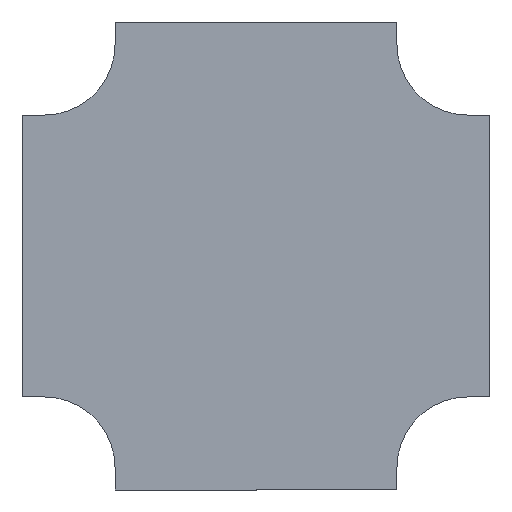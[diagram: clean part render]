
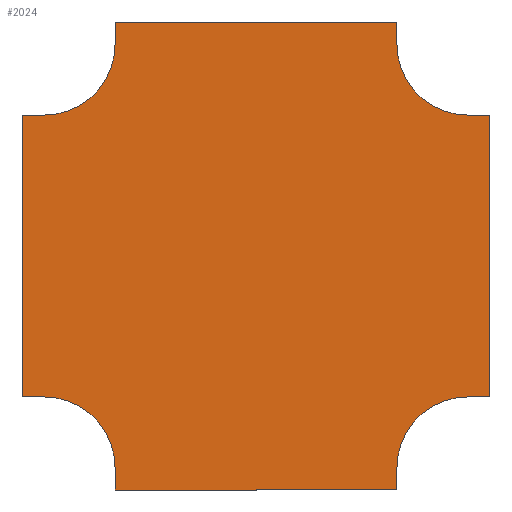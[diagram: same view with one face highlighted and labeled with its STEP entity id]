
A CAD part, front view. The second image highlights one B-rep face of the part: STEP entity #2024.
In plain terms, the highlighted planar face has unit normal (0, -1, 0).
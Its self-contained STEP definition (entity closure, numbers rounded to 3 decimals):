
#7 = DIRECTION ( 'NONE',  ( 0., 0., -1. ) ) ;
#35 = CARTESIAN_POINT ( 'NONE',  ( -625., 0., 0. ) ) ;
#46 = DIRECTION ( 'NONE',  ( 0., 0., 1. ) ) ;
#64 = EDGE_CURVE ( 'NONE', #1543, #1402, #2629, .T. ) ;
#68 = LINE ( 'NONE', #1270, #1745 ) ;
#133 = AXIS2_PLACEMENT_3D ( 'NONE', #620, #326, #3113 ) ;
#141 = DIRECTION ( 'NONE',  ( 0., 0., -1. ) ) ;
#150 = EDGE_CURVE ( 'NONE', #1124, #1102, #3042, .T. ) ;
#170 = DIRECTION ( 'NONE',  ( 0., 0., 1. ) ) ;
#199 = VERTEX_POINT ( 'NONE', #1761 ) ;
#201 = EDGE_CURVE ( 'NONE', #2785, #3183, #2734, .T. ) ;
#206 = DIRECTION ( 'NONE',  ( 0., 0., 1. ) ) ;
#231 = ORIENTED_EDGE ( 'NONE', *, *, #150, .F. ) ;
#248 = CARTESIAN_POINT ( 'NONE',  ( 0., 0., 0. ) ) ;
#325 = ORIENTED_EDGE ( 'NONE', *, *, #2211, .F. ) ;
#326 = DIRECTION ( 'NONE',  ( 0., -1., 0. ) ) ;
#327 = LINE ( 'NONE', #2325, #2363 ) ;
#362 = LINE ( 'NONE', #2624, #1243 ) ;
#430 = CARTESIAN_POINT ( 'NONE',  ( 0., 0., -125. ) ) ;
#463 = VERTEX_POINT ( 'NONE', #868 ) ;
#489 = LINE ( 'NONE', #3251, #547 ) ;
#500 = DIRECTION ( 'NONE',  ( 0., -1., 0. ) ) ;
#538 = ORIENTED_EDGE ( 'NONE', *, *, #1442, .F. ) ;
#547 = VECTOR ( 'NONE', #1699, 1000. ) ;
#557 = DIRECTION ( 'NONE',  ( 0., -1., 0. ) ) ;
#616 = EDGE_CURVE ( 'NONE', #1102, #2129, #1897, .T. ) ;
#620 = CARTESIAN_POINT ( 'NONE',  ( -750., 0., 0. ) ) ;
#631 = CARTESIAN_POINT ( 'NONE',  ( -625., 0., 40. ) ) ;
#641 = ORIENTED_EDGE ( 'NONE', *, *, #2641, .F. ) ;
#648 = FACE_OUTER_BOUND ( 'NONE', #2447, .T. ) ;
#670 = VECTOR ( 'NONE', #2217, 1000. ) ;
#698 = EDGE_CURVE ( 'NONE', #463, #1810, #3121, .T. ) ;
#717 = DIRECTION ( 'NONE',  ( 0., 0., -1. ) ) ;
#738 = DIRECTION ( 'NONE',  ( 1., 0., 0. ) ) ;
#763 = VECTOR ( 'NONE', #1679, 1000. ) ;
#773 = ORIENTED_EDGE ( 'NONE', *, *, #616, .F. ) ;
#775 = LINE ( 'NONE', #806, #1936 ) ;
#806 = CARTESIAN_POINT ( 'NONE',  ( -790., 0., -125. ) ) ;
#838 = VECTOR ( 'NONE', #170, 1000. ) ;
#868 = CARTESIAN_POINT ( 'NONE',  ( -750., 0., -125. ) ) ;
#895 = CARTESIAN_POINT ( 'NONE',  ( 0., 0., -125. ) ) ;
#981 = ORIENTED_EDGE ( 'NONE', *, *, #1545, .F. ) ;
#991 = ORIENTED_EDGE ( 'NONE', *, *, #1087, .F. ) ;
#1028 = VECTOR ( 'NONE', #1414, 1000. ) ;
#1044 = EDGE_CURVE ( 'NONE', #2129, #2459, #2190, .T. ) ;
#1087 = EDGE_CURVE ( 'NONE', #1402, #1900, #3152, .T. ) ;
#1102 = VERTEX_POINT ( 'NONE', #2159 ) ;
#1124 = VERTEX_POINT ( 'NONE', #2895 ) ;
#1161 = ORIENTED_EDGE ( 'NONE', *, *, #1181, .F. ) ;
#1181 = EDGE_CURVE ( 'NONE', #2459, #2664, #489, .T. ) ;
#1238 = CARTESIAN_POINT ( 'NONE',  ( -625., 0., -750. ) ) ;
#1242 = LINE ( 'NONE', #2243, #2698 ) ;
#1243 = VECTOR ( 'NONE', #141, 1000. ) ;
#1256 = VERTEX_POINT ( 'NONE', #3235 ) ;
#1270 = CARTESIAN_POINT ( 'NONE',  ( -750., 0., -125. ) ) ;
#1310 = VERTEX_POINT ( 'NONE', #2823 ) ;
#1317 = EDGE_CURVE ( 'NONE', #199, #1543, #327, .T. ) ;
#1381 = DIRECTION ( 'NONE',  ( 0., 0., -1. ) ) ;
#1386 = EDGE_CURVE ( 'NONE', #1900, #3050, #775, .T. ) ;
#1402 = VERTEX_POINT ( 'NONE', #2359 ) ;
#1407 = CARTESIAN_POINT ( 'NONE',  ( -790., 0., -625. ) ) ;
#1411 = AXIS2_PLACEMENT_3D ( 'NONE', #3260, #500, #206 ) ;
#1414 = DIRECTION ( 'NONE',  ( 1., 0., 0. ) ) ;
#1442 = EDGE_CURVE ( 'NONE', #3183, #1310, #362, .T. ) ;
#1528 = DIRECTION ( 'NONE',  ( 1., 0., 0. ) ) ;
#1543 = VERTEX_POINT ( 'NONE', #1238 ) ;
#1545 = EDGE_CURVE ( 'NONE', #1256, #1124, #2253, .T. ) ;
#1603 = CARTESIAN_POINT ( 'NONE',  ( -750., 0., -750. ) ) ;
#1679 = DIRECTION ( 'NONE',  ( -1., 0., 0. ) ) ;
#1699 = DIRECTION ( 'NONE',  ( 0., 0., -1. ) ) ;
#1719 = ORIENTED_EDGE ( 'NONE', *, *, #1386, .F. ) ;
#1740 = EDGE_CURVE ( 'NONE', #3050, #463, #68, .T. ) ;
#1745 = VECTOR ( 'NONE', #1528, 1000. ) ;
#1761 = CARTESIAN_POINT ( 'NONE',  ( -625., 0., -790. ) ) ;
#1810 = VERTEX_POINT ( 'NONE', #35 ) ;
#1831 = DIRECTION ( 'NONE',  ( 0., 0., 1. ) ) ;
#1897 = CIRCLE ( 'NONE', #2472, 125. ) ;
#1900 = VERTEX_POINT ( 'NONE', #1407 ) ;
#1936 = VECTOR ( 'NONE', #1831, 1000. ) ;
#1990 = PLANE ( 'NONE',  #2218 ) ;
#2024 = ADVANCED_FACE ( 'NONE', ( #648 ), #1990, .T. ) ;
#2032 = DIRECTION ( 'NONE',  ( -1., 0., 0. ) ) ;
#2045 = EDGE_CURVE ( 'NONE', #2664, #2785, #2959, .T. ) ;
#2129 = VERTEX_POINT ( 'NONE', #430 ) ;
#2145 = CARTESIAN_POINT ( 'NONE',  ( -750., 0., -625. ) ) ;
#2159 = CARTESIAN_POINT ( 'NONE',  ( -125., 0., 0. ) ) ;
#2180 = ORIENTED_EDGE ( 'NONE', *, *, #2045, .F. ) ;
#2185 = CARTESIAN_POINT ( 'NONE',  ( 0., 0., -625. ) ) ;
#2190 = LINE ( 'NONE', #895, #1028 ) ;
#2211 = EDGE_CURVE ( 'NONE', #1810, #1256, #2993, .T. ) ;
#2217 = DIRECTION ( 'NONE',  ( -1., 0., 0. ) ) ;
#2218 = AXIS2_PLACEMENT_3D ( 'NONE', #2997, #3013, #717 ) ;
#2243 = CARTESIAN_POINT ( 'NONE',  ( -625., 0., -790. ) ) ;
#2253 = LINE ( 'NONE', #3031, #2592 ) ;
#2278 = DIRECTION ( 'NONE',  ( 0., -1., 0. ) ) ;
#2286 = ORIENTED_EDGE ( 'NONE', *, *, #1317, .F. ) ;
#2325 = CARTESIAN_POINT ( 'NONE',  ( -625., 0., -790. ) ) ;
#2347 = CARTESIAN_POINT ( 'NONE',  ( 40., 0., -125. ) ) ;
#2359 = CARTESIAN_POINT ( 'NONE',  ( -750., 0., -625. ) ) ;
#2363 = VECTOR ( 'NONE', #46, 1000. ) ;
#2368 = CARTESIAN_POINT ( 'NONE',  ( -125., 0., -750. ) ) ;
#2447 = EDGE_LOOP ( 'NONE', ( #981, #325, #2745, #2712, #1719, #991, #2560, #2286, #641, #538, #3128, #2180, #1161, #2996, #773, #231 ) ) ;
#2459 = VERTEX_POINT ( 'NONE', #2347 ) ;
#2472 = AXIS2_PLACEMENT_3D ( 'NONE', #248, #2278, #1381 ) ;
#2479 = CARTESIAN_POINT ( 'NONE',  ( 40., 0., -625. ) ) ;
#2532 = CARTESIAN_POINT ( 'NONE',  ( -125., 0., 40. ) ) ;
#2560 = ORIENTED_EDGE ( 'NONE', *, *, #64, .F. ) ;
#2592 = VECTOR ( 'NONE', #738, 1000. ) ;
#2624 = CARTESIAN_POINT ( 'NONE',  ( -125., 0., -790. ) ) ;
#2629 = CIRCLE ( 'NONE', #3281, 125. ) ;
#2641 = EDGE_CURVE ( 'NONE', #1310, #199, #1242, .T. ) ;
#2664 = VERTEX_POINT ( 'NONE', #2479 ) ;
#2698 = VECTOR ( 'NONE', #2032, 1000. ) ;
#2712 = ORIENTED_EDGE ( 'NONE', *, *, #1740, .F. ) ;
#2734 = CIRCLE ( 'NONE', #1411, 125. ) ;
#2745 = ORIENTED_EDGE ( 'NONE', *, *, #698, .F. ) ;
#2748 = CARTESIAN_POINT ( 'NONE',  ( -790., 0., -125. ) ) ;
#2785 = VERTEX_POINT ( 'NONE', #3049 ) ;
#2788 = VECTOR ( 'NONE', #7, 1000. ) ;
#2823 = CARTESIAN_POINT ( 'NONE',  ( -125., 0., -790. ) ) ;
#2895 = CARTESIAN_POINT ( 'NONE',  ( -125., 0., 40. ) ) ;
#2959 = LINE ( 'NONE', #2185, #670 ) ;
#2993 = LINE ( 'NONE', #631, #838 ) ;
#2996 = ORIENTED_EDGE ( 'NONE', *, *, #1044, .F. ) ;
#2997 = CARTESIAN_POINT ( 'NONE',  ( 0., 0., 0. ) ) ;
#3013 = DIRECTION ( 'NONE',  ( 0., -1., 0. ) ) ;
#3031 = CARTESIAN_POINT ( 'NONE',  ( -625., 0., 40. ) ) ;
#3042 = LINE ( 'NONE', #2532, #2788 ) ;
#3049 = CARTESIAN_POINT ( 'NONE',  ( 0., 0., -625. ) ) ;
#3050 = VERTEX_POINT ( 'NONE', #2748 ) ;
#3113 = DIRECTION ( 'NONE',  ( 0., 0., 1. ) ) ;
#3119 = DIRECTION ( 'NONE',  ( 0., 0., -1. ) ) ;
#3121 = CIRCLE ( 'NONE', #133, 125. ) ;
#3128 = ORIENTED_EDGE ( 'NONE', *, *, #201, .F. ) ;
#3152 = LINE ( 'NONE', #2145, #763 ) ;
#3183 = VERTEX_POINT ( 'NONE', #2368 ) ;
#3235 = CARTESIAN_POINT ( 'NONE',  ( -625., 0., 40. ) ) ;
#3251 = CARTESIAN_POINT ( 'NONE',  ( 40., 0., -125. ) ) ;
#3260 = CARTESIAN_POINT ( 'NONE',  ( 0., 0., -750. ) ) ;
#3281 = AXIS2_PLACEMENT_3D ( 'NONE', #1603, #557, #3119 ) ;
